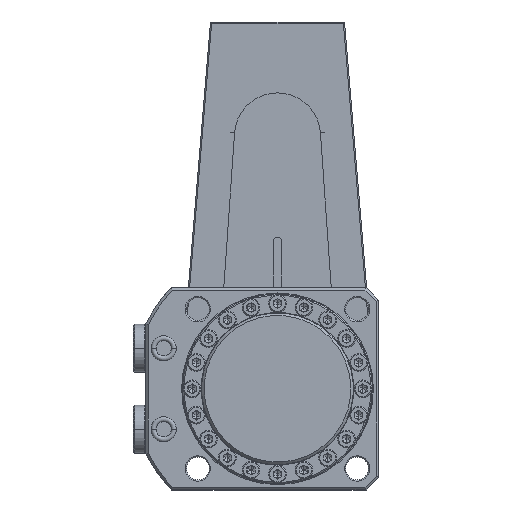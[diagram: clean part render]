
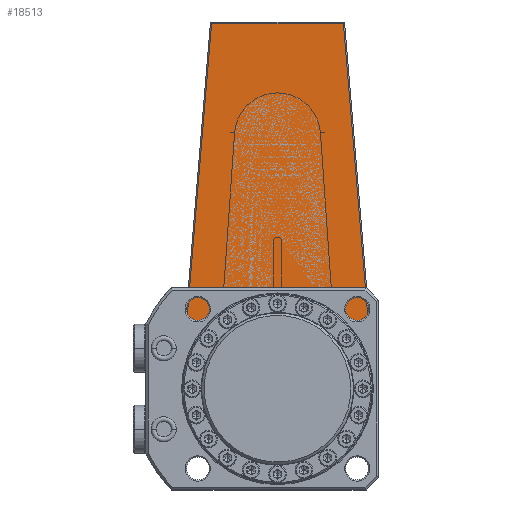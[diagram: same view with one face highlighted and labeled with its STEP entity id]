
A CAD part, front view. The second image highlights one B-rep face of the part: STEP entity #18513.
In plain terms, the highlighted planar face has unit normal (0, -1, 0).
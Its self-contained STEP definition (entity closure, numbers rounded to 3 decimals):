
#14678=DIRECTION('',(1.,0.,0.));
#14679=VECTOR('',#14678,21.334);
#14680=CARTESIAN_POINT('',(-39.5,-17.5,1.5));
#14681=LINE('',#14680,#14679);
#14682=DIRECTION('',(0.,0.,-1.));
#14683=VECTOR('',#14682,23.5);
#14684=CARTESIAN_POINT('',(-39.5,-17.5,25.));
#14685=LINE('',#14684,#14683);
#14686=DIRECTION('',(-0.707,0.,-0.707));
#14687=VECTOR('',#14686,1.414);
#14688=CARTESIAN_POINT('',(-38.5,-17.5,26.));
#14689=LINE('',#14688,#14687);
#14690=DIRECTION('',(-1.,0.,0.));
#14691=VECTOR('',#14690,34.);
#14692=CARTESIAN_POINT('',(-4.5,-17.5,26.));
#14693=LINE('',#14692,#14691);
#14694=DIRECTION('',(0.,0.,-1.));
#14695=VECTOR('',#14694,10.);
#14696=CARTESIAN_POINT('',(-4.5,-17.5,36.));
#14697=LINE('',#14696,#14695);
#14698=DIRECTION('',(-1.,0.,0.));
#14699=VECTOR('',#14698,29.479);
#14700=CARTESIAN_POINT('',(24.979,-17.5,36.));
#14701=LINE('',#14700,#14699);
#14702=DIRECTION('',(-0.997,0.,0.083));
#14703=VECTOR('',#14702,119.935);
#14704=CARTESIAN_POINT('',(144.5,-17.5,26.04));
#14705=LINE('',#14704,#14703);
#14706=DIRECTION('',(0.,0.,1.));
#14707=VECTOR('',#14706,52.08);
#14708=CARTESIAN_POINT('',(144.5,-17.5,-26.04));
#14709=LINE('',#14708,#14707);
#14710=DIRECTION('',(0.997,0.,0.083));
#14711=VECTOR('',#14710,119.935);
#14712=CARTESIAN_POINT('',(24.979,-17.5,-36.));
#14713=LINE('',#14712,#14711);
#14714=DIRECTION('',(1.,0.,0.));
#14715=VECTOR('',#14714,29.479);
#14716=CARTESIAN_POINT('',(-4.5,-17.5,-36.));
#14717=LINE('',#14716,#14715);
#14718=DIRECTION('',(0.,0.,-1.));
#14719=VECTOR('',#14718,10.);
#14720=CARTESIAN_POINT('',(-4.5,-17.5,-26.));
#14721=LINE('',#14720,#14719);
#14722=DIRECTION('',(1.,0.,0.));
#14723=VECTOR('',#14722,34.);
#14724=CARTESIAN_POINT('',(-38.5,-17.5,-26.));
#14725=LINE('',#14724,#14723);
#14726=DIRECTION('',(0.707,0.,-0.707));
#14727=VECTOR('',#14726,1.414);
#14728=CARTESIAN_POINT('',(-39.5,-17.5,-25.));
#14729=LINE('',#14728,#14727);
#14730=DIRECTION('',(0.,0.,-1.));
#14731=VECTOR('',#14730,23.5);
#14732=CARTESIAN_POINT('',(-39.5,-17.5,-1.5));
#14733=LINE('',#14732,#14731);
#14734=DIRECTION('',(1.,0.,0.));
#14735=VECTOR('',#14734,21.334);
#14736=CARTESIAN_POINT('',(-39.5,-17.5,-1.5));
#14737=LINE('',#14736,#14735);
#14743=CARTESIAN_POINT('',(0.001,-17.5,0.));
#14744=DIRECTION('',(0.,1.,0.));
#14745=DIRECTION('',(-0.997,0.,0.082));
#14746=AXIS2_PLACEMENT_3D('',#14743,#14744,#14745);
#14850=CARTESIAN_POINT('',(-18.166,-17.5,
-1.5));
#15030=CARTESIAN_POINT('',(-18.166,-17.5,
1.5));
#18143=CARTESIAN_POINT('',(-38.5,-17.5,26.));
#18145=VERTEX_POINT('',#18143);
#18149=CARTESIAN_POINT('',(-4.5,-17.5,26.));
#18150=VERTEX_POINT('',#18149);
#18155=CARTESIAN_POINT('',(144.5,-17.5,-26.04));
#18156=CARTESIAN_POINT('',(144.5,-17.5,26.04));
#18157=VERTEX_POINT('',#18155);
#18158=VERTEX_POINT('',#18156);
#18168=CARTESIAN_POINT('',(-38.5,-17.5,-26.));
#18170=VERTEX_POINT('',#18168);
#18171=CARTESIAN_POINT('',(-4.5,-17.5,-26.));
#18172=VERTEX_POINT('',#18171);
#18191=CARTESIAN_POINT('',(-39.5,-17.5,-25.));
#18193=VERTEX_POINT('',#18191);
#18197=CARTESIAN_POINT('',(-39.5,-17.5,-1.5));
#18198=VERTEX_POINT('',#18197);
#18199=CARTESIAN_POINT('',(-39.5,-17.5,1.5));
#18201=VERTEX_POINT('',#18199);
#18205=CARTESIAN_POINT('',(-39.5,-17.5,25.));
#18206=VERTEX_POINT('',#18205);
#18208=VERTEX_POINT('',#15030);
#18209=VERTEX_POINT('',#14850);
#18255=CARTESIAN_POINT('',(-4.5,-17.5,-36.));
#18256=VERTEX_POINT('',#18255);
#18257=CARTESIAN_POINT('',(24.979,-17.5,-36.));
#18258=VERTEX_POINT('',#18257);
#18283=CARTESIAN_POINT('',(24.979,-17.5,36.));
#18284=VERTEX_POINT('',#18283);
#18285=CARTESIAN_POINT('',(-4.5,-17.5,36.));
#18286=VERTEX_POINT('',#18285);
#18474=CARTESIAN_POINT('',(0.,-17.5,0.));
#18475=DIRECTION('',(0.,1.,0.));
#18476=DIRECTION('',(1.,0.,0.));
#18477=AXIS2_PLACEMENT_3D('',#18474,#18475,#18476);
#18478=PLANE('',#18477);
#18480=ORIENTED_EDGE('',*,*,#18479,.F.);
#18482=ORIENTED_EDGE('',*,*,#18481,.F.);
#18484=ORIENTED_EDGE('',*,*,#18483,.F.);
#18486=ORIENTED_EDGE('',*,*,#18485,.F.);
#18488=ORIENTED_EDGE('',*,*,#18487,.F.);
#18490=ORIENTED_EDGE('',*,*,#18489,.F.);
#18492=ORIENTED_EDGE('',*,*,#18491,.F.);
#18494=ORIENTED_EDGE('',*,*,#18493,.F.);
#18496=ORIENTED_EDGE('',*,*,#18495,.F.);
#18498=ORIENTED_EDGE('',*,*,#18497,.F.);
#18500=ORIENTED_EDGE('',*,*,#18499,.F.);
#18502=ORIENTED_EDGE('',*,*,#18501,.F.);
#18504=ORIENTED_EDGE('',*,*,#18503,.F.);
#18506=ORIENTED_EDGE('',*,*,#18505,.F.);
#18508=ORIENTED_EDGE('',*,*,#18507,.F.);
#18510=ORIENTED_EDGE('',*,*,#18509,.T.);
#18511=EDGE_LOOP('',(#18480,#18482,#18484,#18486,#18488,#18490,#18492,#18494,
#18496,#18498,#18500,#18502,#18504,#18506,#18508,#18510));
#18512=FACE_OUTER_BOUND('',#18511,.F.);
#18513=ADVANCED_FACE('',(#18512),#18478,.F.);
#14747=CIRCLE('',#14746,18.229);
#18479=EDGE_CURVE('',#18208,#18209,#14747,.T.);
#18481=EDGE_CURVE('',#18201,#18208,#14681,.T.);
#18483=EDGE_CURVE('',#18206,#18201,#14685,.T.);
#18485=EDGE_CURVE('',#18145,#18206,#14689,.T.);
#18487=EDGE_CURVE('',#18150,#18145,#14693,.T.);
#18489=EDGE_CURVE('',#18286,#18150,#14697,.T.);
#18491=EDGE_CURVE('',#18284,#18286,#14701,.T.);
#18493=EDGE_CURVE('',#18158,#18284,#14705,.T.);
#18495=EDGE_CURVE('',#18157,#18158,#14709,.T.);
#18497=EDGE_CURVE('',#18258,#18157,#14713,.T.);
#18499=EDGE_CURVE('',#18256,#18258,#14717,.T.);
#18501=EDGE_CURVE('',#18172,#18256,#14721,.T.);
#18503=EDGE_CURVE('',#18170,#18172,#14725,.T.);
#18505=EDGE_CURVE('',#18193,#18170,#14729,.T.);
#18507=EDGE_CURVE('',#18198,#18193,#14733,.T.);
#18509=EDGE_CURVE('',#18198,#18209,#14737,.T.);
